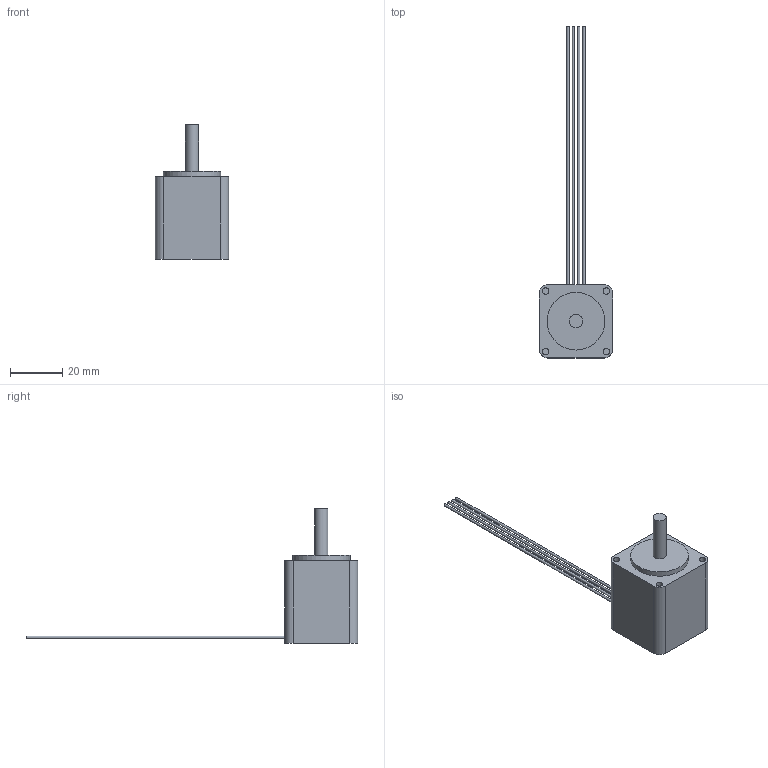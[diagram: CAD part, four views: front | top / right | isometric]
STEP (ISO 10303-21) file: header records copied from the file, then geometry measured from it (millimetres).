
FILE_DESCRIPTION((''),'2;1');
FILE_NAME('C:\Documents and Settings\rbadgerow\Desktop\updated web dwgs\ipt\211\211-13 single.stp','2008-10-26T10:18:55',('rbadgerow'),(''),'Autodesk Inventor 2009','Autodesk Inventor 2009','');
FILE_SCHEMA(('AUTOMOTIVE_DESIGN { 1 0 10303 214 1 1 1 1 }'));
Length unit declared in the file: inch
Products named in the file (1): 211-13 single
Bounding box: 27.94 x 126.66 x 51.31 mm (x, y, z)
Volume: 25117.2 mm3; surface area: 7469.3 mm2
Topology: 1 solids, 1 shells, 30 faces, 57 edges, 39 vertices
Faces by surface type: plane 16, cylinder 14
Full cylindrical faces by diameter (mm): 0.965 x4, 2.489 x4, 4.999 x1, 21.996 x1
Entity records: 808 total; most frequent: DIRECTION 134, CARTESIAN_POINT 111, ORIENTED_EDGE 88, AXIS2_PLACEMENT_3D 59, EDGE_LOOP 50, EDGE_CURVE 44, VERTEX_POINT 36, FACE_OUTER_BOUND 30
